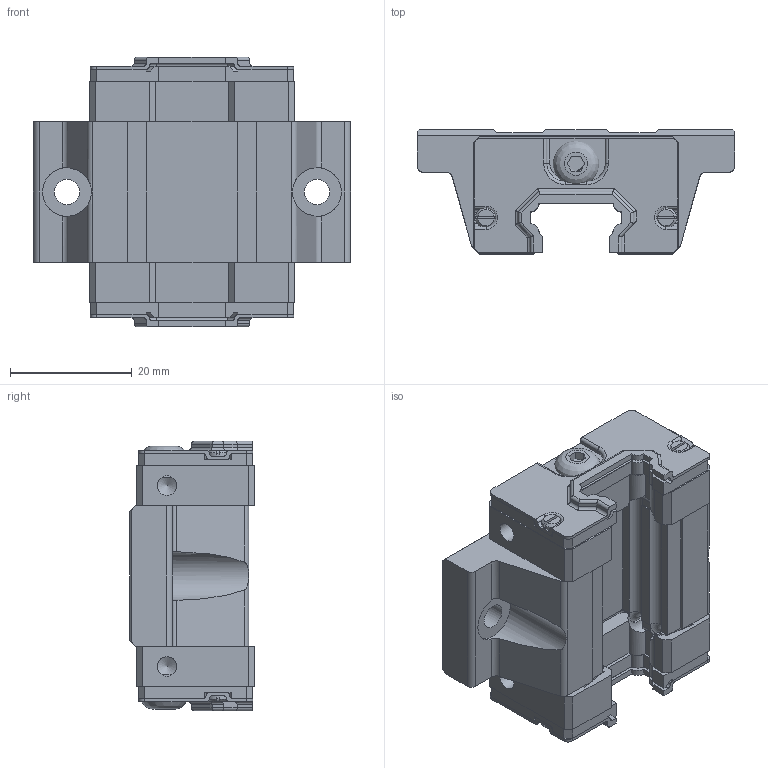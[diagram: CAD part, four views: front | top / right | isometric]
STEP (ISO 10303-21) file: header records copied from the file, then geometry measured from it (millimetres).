
FILE_DESCRIPTION(/* description */ (''),/* implementation_level */ '2;1');
FILE_NAME(/* name */ 'C:\Users\daviddillkoetter\ownCloud\Kamp und Kötter\Artikel\_CAD-Dateien\ZCF-Profilfuehrung\CE\Export\KPFW-15U-FS.stp',/* time_stamp */ '2021-03-22T15:32:32+01:00',/* author */ ('daviddillkoetter'),/* organization */ (''),/* preprocessor_version */ 'ST-DEVELOPER v18.1',/* originating_system */ 'Autodesk Inventor 2021',/* authorisation */ '');
FILE_SCHEMA (('AUTOMOTIVE_DESIGN { 1 0 10303 214 3 1 1 }'));
Length unit declared in the file: millimetre
Products named in the file (9): CE15W-SA; CE15_Teflonumlenker; CE15_Kunststoffkappe; CE15_Schmutzabstreifer; Screw GB 823 M2,5 x 10; DIN 920 - M2,5 x 10; CE15_Metallabdeckung; ISO 7380-1 - M4 x 6; CE15_SAGrundkoeprerWagen
Assembly tree (19 placements, depth 2):
  CE15W-SA
    CE15_Teflonumlenker  x2
    CE15_Kunststoffkappe  x2
    CE15_Schmutzabstreifer  x2
    DIN 920 - M2,5 x 10  x4
    Screw GB 823 M2,5 x 10  x4
    ISO 7380-1 - M4 x 6  x2
    CE15_Metallabdeckung  x2
    CE15_SAGrundkoeprerWagen
Bounding box: 52 x 20.4 x 44.24 mm (x, y, z)
Volume: 21368.2 mm3; surface area: 20578.5 mm2
Topology: 19 solids, 19 shells, 1290 faces, 3484 edges, 2268 vertices
Faces by surface type: plane 750, cylinder 376, cone 90, torus 68, sphere 4, bspline 2
Full cylindrical faces by diameter (mm): 0.845 x4, 2.013 x12, 2.208 x4, 2.5 x12, 2.8 x16, 2.9 x8, 3.2 x4, 3.242 x2, 3.5 x4, 4 x2, 4.134 x2, 4.3 x16, 4.5 x6, 5.8 x2, 7.6 x2, 8 x2
Entity records: 21599 total; most frequent: CARTESIAN_POINT 4224, DIRECTION 3552, ORIENTED_EDGE 3528, EDGE_CURVE 1764, AXIS2_PLACEMENT_3D 1195, LINE 1162, VECTOR 1162, VERTEX_POINT 1154
